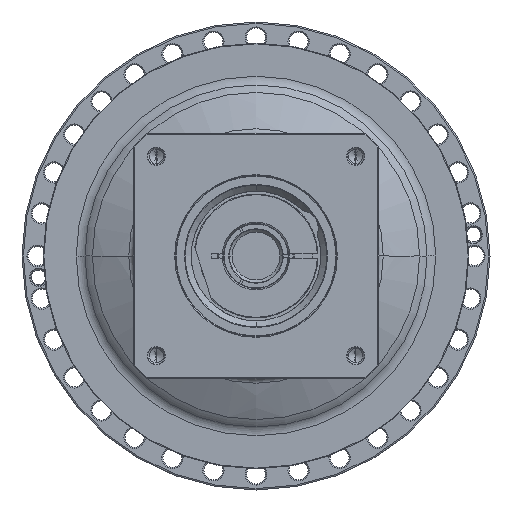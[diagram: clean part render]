
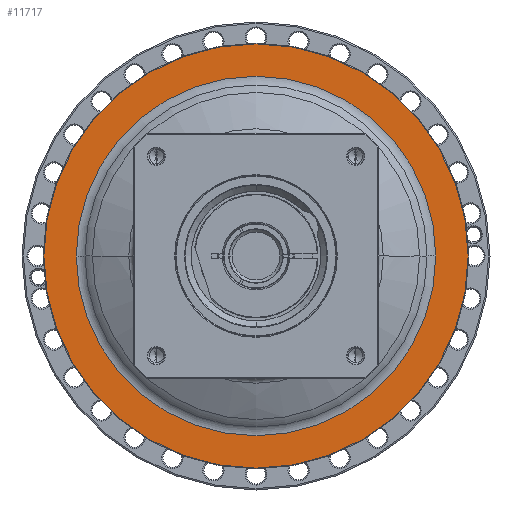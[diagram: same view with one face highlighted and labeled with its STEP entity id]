
A CAD part, left-side view. The second image highlights one B-rep face of the part: STEP entity #11717.
In plain terms, the highlighted planar face has unit normal (-1, 0, 0) as drawn and (1, 0, 0) by its records, which use the part's own axes.
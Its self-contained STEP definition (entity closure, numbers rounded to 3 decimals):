
#11124=CARTESIAN_POINT('',(-25.,0.,0.));
#11125=DIRECTION('',(-1.,0.,0.));
#11126=DIRECTION('',(0.,-1.,0.));
#11127=AXIS2_PLACEMENT_3D('',#11124,#11125,#11126);
#11129=CARTESIAN_POINT('',(-25.,0.,0.));
#11130=DIRECTION('',(-1.,0.,0.));
#11131=DIRECTION('',(0.,1.,0.));
#11132=AXIS2_PLACEMENT_3D('',#11129,#11130,#11131);
#11139=CARTESIAN_POINT('',(-25.,0.,0.));
#11140=DIRECTION('',(1.,0.,0.));
#11141=DIRECTION('',(0.,1.,0.));
#11142=AXIS2_PLACEMENT_3D('',#11139,#11140,#11141);
#11194=CARTESIAN_POINT('',(-25.,0.,0.));
#11195=DIRECTION('',(-1.,0.,0.));
#11196=DIRECTION('',(0.,1.,0.));
#11197=AXIS2_PLACEMENT_3D('',#11194,#11195,#11196);
#11268=CARTESIAN_POINT('',(-25.,-150.5,0.));
#11269=CARTESIAN_POINT('',(-25.,150.5,0.));
#11270=VERTEX_POINT('',#11268);
#11271=VERTEX_POINT('',#11269);
#11296=CARTESIAN_POINT('',(-25.,127.5,0.));
#11297=CARTESIAN_POINT('',(-25.,-127.5,0.));
#11298=VERTEX_POINT('',#11296);
#11299=VERTEX_POINT('',#11297);
#11702=CARTESIAN_POINT('',(-25.,0.,0.));
#11703=DIRECTION('',(1.,0.,0.));
#11704=DIRECTION('',(0.,-1.,0.));
#11705=AXIS2_PLACEMENT_3D('',#11702,#11703,#11704);
#11706=PLANE('',#11705);
#11707=ORIENTED_EDGE('',*,*,#11643,.T.);
#11708=ORIENTED_EDGE('',*,*,#11658,.T.);
#11709=EDGE_LOOP('',(#11707,#11708));
#11710=FACE_OUTER_BOUND('',#11709,.F.);
#11712=ORIENTED_EDGE('',*,*,#11711,.T.);
#11714=ORIENTED_EDGE('',*,*,#11713,.F.);
#11715=EDGE_LOOP('',(#11712,#11714));
#11716=FACE_BOUND('',#11715,.F.);
#11717=ADVANCED_FACE('',(#11710,#11716),#11706,.T.);
#11128=CIRCLE('',#11127,150.5);
#11133=CIRCLE('',#11132,150.5);
#11143=CIRCLE('',#11142,127.5);
#11198=CIRCLE('',#11197,127.5);
#11643=EDGE_CURVE('',#11270,#11271,#11128,.T.);
#11658=EDGE_CURVE('',#11271,#11270,#11133,.T.);
#11711=EDGE_CURVE('',#11298,#11299,#11143,.T.);
#11713=EDGE_CURVE('',#11298,#11299,#11198,.T.);
